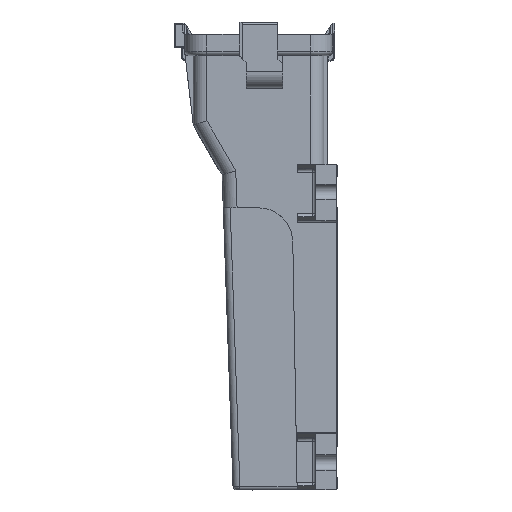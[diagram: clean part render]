
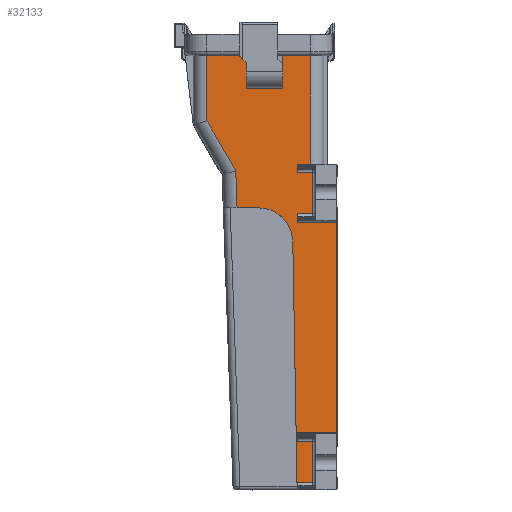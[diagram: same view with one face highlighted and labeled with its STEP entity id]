
A CAD part, left-side view. The second image highlights one B-rep face of the part: STEP entity #32133.
In plain terms, the highlighted planar face has unit normal (-1, 0, 0).
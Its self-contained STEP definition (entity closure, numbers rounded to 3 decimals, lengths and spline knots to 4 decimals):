
#2=DIRECTION('',(0.,-1.,0.));
#3=VECTOR('',#2,0.47);
#4=CARTESIAN_POINT('',(-3.1975,1.7,1.));
#5=LINE('',#4,#3);
#6=DIRECTION('',(0.,0.707,0.707));
#7=VECTOR('',#6,0.1414);
#8=CARTESIAN_POINT('',(-3.1975,1.13,0.9));
#9=LINE('',#8,#7);
#10=DIRECTION('',(0.,0.,1.));
#11=VECTOR('',#10,0.37);
#12=CARTESIAN_POINT('',(-3.1975,1.13,0.53));
#13=LINE('',#12,#11);
#14=DIRECTION('',(0.,1.,0.));
#15=VECTOR('',#14,0.53);
#16=CARTESIAN_POINT('',(-3.1975,0.6,0.53));
#17=LINE('',#16,#15);
#18=DIRECTION('',(0.,0.,-1.));
#19=VECTOR('',#18,0.47);
#20=CARTESIAN_POINT('',(-3.1975,0.6,1.));
#21=LINE('',#20,#19);
#22=DIRECTION('',(0.,-1.,0.));
#23=VECTOR('',#22,0.4);
#24=CARTESIAN_POINT('',(-3.1975,0.6,1.));
#25=LINE('',#24,#23);
#26=DIRECTION('',(0.,-1.,0.));
#27=VECTOR('',#26,0.19);
#28=CARTESIAN_POINT('',(-3.1975,0.39,-0.58));
#29=LINE('',#28,#27);
#30=DIRECTION('',(0.,-1.,0.));
#31=VECTOR('',#30,0.57);
#32=CARTESIAN_POINT('',(-3.1975,0.39,-1.42));
#33=LINE('',#32,#31);
#34=DIRECTION('',(0.,1.,0.));
#35=VECTOR('',#34,0.57);
#36=CARTESIAN_POINT('',(-3.1975,-0.18,-4.47));
#37=LINE('',#36,#35);
#38=DIRECTION('',(0.,-0.017,-1.));
#39=VECTOR('',#38,3.6005);
#40=CARTESIAN_POINT('',(-3.1975,0.4528,-1.71));
#41=LINE('',#40,#39);
#42=CARTESIAN_POINT('',(-3.1975,0.9528,-1.71));
#43=DIRECTION('',(1.,0.,0.));
#44=DIRECTION('',(0.,0.,1.));
#45=AXIS2_PLACEMENT_3D('',#42,#43,#44);
#47=DIRECTION('',(0.,-1.,0.));
#48=VECTOR('',#47,0.3102);
#49=CARTESIAN_POINT('',(-3.1975,1.2631,-1.21));
#50=LINE('',#49,#48);
#7556=DIRECTION('',(0.,-0.035,-0.999));
#7557=VECTOR('',#7556,0.5389);
#7558=CARTESIAN_POINT('',(-3.1975,1.2819,-0.6714));
#7559=LINE('',#7558,#7557);
#7576=DIRECTION('',(0.,-0.5,-0.866));
#7577=VECTOR('',#7576,0.8369);
#7578=CARTESIAN_POINT('',(-3.1975,1.7,0.0535));
#7579=LINE('',#7578,#7577);
#10568=CARTESIAN_POINT('',(-3.1975,0.39,-5.2));
#10570=DIRECTION('',(0.,1.,0.));
#10571=VECTOR('',#10570,0.22);
#10572=CARTESIAN_POINT('',(-3.1975,0.17,-5.2));
#10573=LINE('',#10572,#10571);
#10574=DIRECTION('',(0.,0.,1.));
#10575=VECTOR('',#10574,0.11);
#10576=CARTESIAN_POINT('',(-3.1975,0.39,-5.31));
#10577=LINE('',#10576,#10575);
#10862=DIRECTION('',(0.,0.,-1.));
#10863=VECTOR('',#10862,3.05);
#10864=CARTESIAN_POINT('',(-3.1975,-0.18,-1.42));
#10865=LINE('',#10864,#10863);
#11449=DIRECTION('',(0.,0.,1.));
#11450=VECTOR('',#11449,0.13);
#11451=CARTESIAN_POINT('',(-3.1975,0.39,-4.6));
#11452=LINE('',#11451,#11450);
#11491=DIRECTION('',(0.,0.,-1.));
#11492=VECTOR('',#11491,0.6);
#11493=CARTESIAN_POINT('',(-3.1975,0.17,-4.6));
#11494=LINE('',#11493,#11492);
#11518=DIRECTION('',(0.,-1.,0.));
#11519=VECTOR('',#11518,0.22);
#11520=CARTESIAN_POINT('',(-3.1975,0.39,-4.6));
#11521=LINE('',#11520,#11519);
#11630=DIRECTION('',(0.,0.,1.));
#11631=VECTOR('',#11630,0.13);
#11632=CARTESIAN_POINT('',(-3.1975,0.39,-1.42));
#11633=LINE('',#11632,#11631);
#11668=DIRECTION('',(0.,0.,-1.));
#11669=VECTOR('',#11668,0.6);
#11670=CARTESIAN_POINT('',(-3.1975,0.17,-0.69));
#11671=LINE('',#11670,#11669);
#11695=DIRECTION('',(0.,-1.,0.));
#11696=VECTOR('',#11695,0.22);
#11697=CARTESIAN_POINT('',(-3.1975,0.39,-0.69));
#11698=LINE('',#11697,#11696);
#11743=DIRECTION('',(0.,0.,1.));
#11744=VECTOR('',#11743,0.11);
#11745=CARTESIAN_POINT('',(-3.1975,0.39,-0.69));
#11746=LINE('',#11745,#11744);
#12113=DIRECTION('',(0.,0.,1.));
#12114=VECTOR('',#12113,1.58);
#12115=CARTESIAN_POINT('',(-3.1975,0.2,-0.58));
#12116=LINE('',#12115,#12114);
#12126=DIRECTION('',(0.,1.,0.));
#12127=VECTOR('',#12126,0.22);
#12128=CARTESIAN_POINT('',(-3.1975,0.17,-1.29));
#12129=LINE('',#12128,#12127);
#19398=DIRECTION('',(0.,0.,-1.));
#19399=VECTOR('',#19398,0.9465);
#19400=CARTESIAN_POINT('',(-3.1975,1.7,1.));
#19401=LINE('',#19400,#19399);
#26549=CARTESIAN_POINT('',(-3.1975,0.9528,-1.21));
#26550=CARTESIAN_POINT('',(-3.1975,0.4528,-1.71));
#26551=VERTEX_POINT('',#26549);
#26552=VERTEX_POINT('',#26550);
#26573=CARTESIAN_POINT('',(-3.1975,1.7,0.0535));
#26574=CARTESIAN_POINT('',(-3.1975,1.2819,-0.6714));
#26575=VERTEX_POINT('',#26573);
#26576=VERTEX_POINT('',#26574);
#26579=CARTESIAN_POINT('',(-3.1975,1.2631,-1.21));
#26580=VERTEX_POINT('',#26579);
#26623=CARTESIAN_POINT('',(-3.1975,0.2,1.));
#26625=VERTEX_POINT('',#26623);
#26631=CARTESIAN_POINT('',(-3.1975,1.7,1.));
#26632=VERTEX_POINT('',#26631);
#26719=CARTESIAN_POINT('',(-3.1975,0.6,1.));
#26720=CARTESIAN_POINT('',(-3.1975,0.6,0.53));
#26721=VERTEX_POINT('',#26719);
#26722=VERTEX_POINT('',#26720);
#27683=CARTESIAN_POINT('',(-3.1975,0.39,-5.31));
#27684=VERTEX_POINT('',#27683);
#27689=CARTESIAN_POINT('',(-3.1975,0.39,-0.58));
#27690=CARTESIAN_POINT('',(-3.1975,0.2,-0.58));
#27691=VERTEX_POINT('',#27689);
#27692=VERTEX_POINT('',#27690);
#27843=CARTESIAN_POINT('',(-3.1975,0.17,-1.29));
#27844=CARTESIAN_POINT('',(-3.1975,0.39,-1.29));
#27845=VERTEX_POINT('',#27843);
#27846=VERTEX_POINT('',#27844);
#27849=CARTESIAN_POINT('',(-3.1975,0.17,-0.69));
#27850=VERTEX_POINT('',#27849);
#27853=CARTESIAN_POINT('',(-3.1975,0.39,-0.69));
#27854=VERTEX_POINT('',#27853);
#27863=CARTESIAN_POINT('',(-3.1975,0.17,-4.6));
#27864=CARTESIAN_POINT('',(-3.1975,0.17,-5.2));
#27865=VERTEX_POINT('',#27863);
#27866=VERTEX_POINT('',#27864);
#27877=CARTESIAN_POINT('',(-3.1975,0.39,-4.6));
#27878=VERTEX_POINT('',#27877);
#27937=VERTEX_POINT('',#10568);
#28583=CARTESIAN_POINT('',(-3.1975,1.23,1.));
#28585=VERTEX_POINT('',#28583);
#28586=CARTESIAN_POINT('',(-3.1975,1.13,0.53));
#28588=VERTEX_POINT('',#28586);
#28600=CARTESIAN_POINT('',(-3.1975,1.13,0.9));
#28601=VERTEX_POINT('',#28600);
#31976=CARTESIAN_POINT('',(-3.1975,0.39,-1.42));
#31977=CARTESIAN_POINT('',(-3.1975,-0.18,-1.42));
#31978=VERTEX_POINT('',#31976);
#31979=VERTEX_POINT('',#31977);
#31984=CARTESIAN_POINT('',(-3.1975,-0.18,-4.47));
#31985=CARTESIAN_POINT('',(-3.1975,0.39,-4.47));
#31986=VERTEX_POINT('',#31984);
#31987=VERTEX_POINT('',#31985);
#32072=CARTESIAN_POINT('',(-3.1975,0.,0.));
#32073=DIRECTION('',(1.,0.,0.));
#32074=DIRECTION('',(0.,0.,-1.));
#32075=AXIS2_PLACEMENT_3D('',#32072,#32073,#32074);
#32076=PLANE('',#32075);
#32078=ORIENTED_EDGE('',*,*,#32077,.T.);
#32080=ORIENTED_EDGE('',*,*,#32079,.F.);
#32082=ORIENTED_EDGE('',*,*,#32081,.F.);
#32084=ORIENTED_EDGE('',*,*,#32083,.F.);
#32086=ORIENTED_EDGE('',*,*,#32085,.F.);
#32088=ORIENTED_EDGE('',*,*,#32087,.T.);
#32090=ORIENTED_EDGE('',*,*,#32089,.F.);
#32092=ORIENTED_EDGE('',*,*,#32091,.F.);
#32094=ORIENTED_EDGE('',*,*,#32093,.F.);
#32096=ORIENTED_EDGE('',*,*,#32095,.T.);
#32098=ORIENTED_EDGE('',*,*,#32097,.T.);
#32100=ORIENTED_EDGE('',*,*,#32099,.T.);
#32102=ORIENTED_EDGE('',*,*,#32101,.F.);
#32104=ORIENTED_EDGE('',*,*,#32103,.T.);
#32106=ORIENTED_EDGE('',*,*,#32105,.T.);
#32108=ORIENTED_EDGE('',*,*,#32107,.T.);
#32110=ORIENTED_EDGE('',*,*,#32109,.F.);
#32112=ORIENTED_EDGE('',*,*,#32111,.T.);
#32114=ORIENTED_EDGE('',*,*,#32113,.T.);
#32116=ORIENTED_EDGE('',*,*,#32115,.T.);
#32118=ORIENTED_EDGE('',*,*,#32117,.F.);
#32120=ORIENTED_EDGE('',*,*,#32119,.F.);
#32122=ORIENTED_EDGE('',*,*,#32121,.F.);
#32124=ORIENTED_EDGE('',*,*,#32123,.F.);
#32126=ORIENTED_EDGE('',*,*,#32125,.F.);
#32128=ORIENTED_EDGE('',*,*,#32127,.F.);
#32130=ORIENTED_EDGE('',*,*,#32129,.F.);
#32131=EDGE_LOOP('',(#32078,#32080,#32082,#32084,#32086,#32088,#32090,#32092,
#32094,#32096,#32098,#32100,#32102,#32104,#32106,#32108,#32110,#32112,#32114,
#32116,#32118,#32120,#32122,#32124,#32126,#32128,#32130));
#32132=FACE_OUTER_BOUND('',#32131,.F.);
#32133=ADVANCED_FACE('',(#32132),#32076,.F.);
#46=CIRCLE('',#45,0.5);
#32077=EDGE_CURVE('',#26632,#28585,#5,.T.);
#32079=EDGE_CURVE('',#28601,#28585,#9,.T.);
#32081=EDGE_CURVE('',#28588,#28601,#13,.T.);
#32083=EDGE_CURVE('',#26722,#28588,#17,.T.);
#32085=EDGE_CURVE('',#26721,#26722,#21,.T.);
#32087=EDGE_CURVE('',#26721,#26625,#25,.T.);
#32089=EDGE_CURVE('',#27692,#26625,#12116,.T.);
#32091=EDGE_CURVE('',#27691,#27692,#29,.T.);
#32093=EDGE_CURVE('',#27854,#27691,#11746,.T.);
#32095=EDGE_CURVE('',#27854,#27850,#11698,.T.);
#32097=EDGE_CURVE('',#27850,#27845,#11671,.T.);
#32099=EDGE_CURVE('',#27845,#27846,#12129,.T.);
#32101=EDGE_CURVE('',#31978,#27846,#11633,.T.);
#32103=EDGE_CURVE('',#31978,#31979,#33,.T.);
#32105=EDGE_CURVE('',#31979,#31986,#10865,.T.);
#32107=EDGE_CURVE('',#31986,#31987,#37,.T.);
#32109=EDGE_CURVE('',#27878,#31987,#11452,.T.);
#32111=EDGE_CURVE('',#27878,#27865,#11521,.T.);
#32113=EDGE_CURVE('',#27865,#27866,#11494,.T.);
#32115=EDGE_CURVE('',#27866,#27937,#10573,.T.);
#32117=EDGE_CURVE('',#27684,#27937,#10577,.T.);
#32119=EDGE_CURVE('',#26552,#27684,#41,.T.);
#32121=EDGE_CURVE('',#26551,#26552,#46,.T.);
#32123=EDGE_CURVE('',#26580,#26551,#50,.T.);
#32125=EDGE_CURVE('',#26576,#26580,#7559,.T.);
#32127=EDGE_CURVE('',#26575,#26576,#7579,.T.);
#32129=EDGE_CURVE('',#26632,#26575,#19401,.T.);
